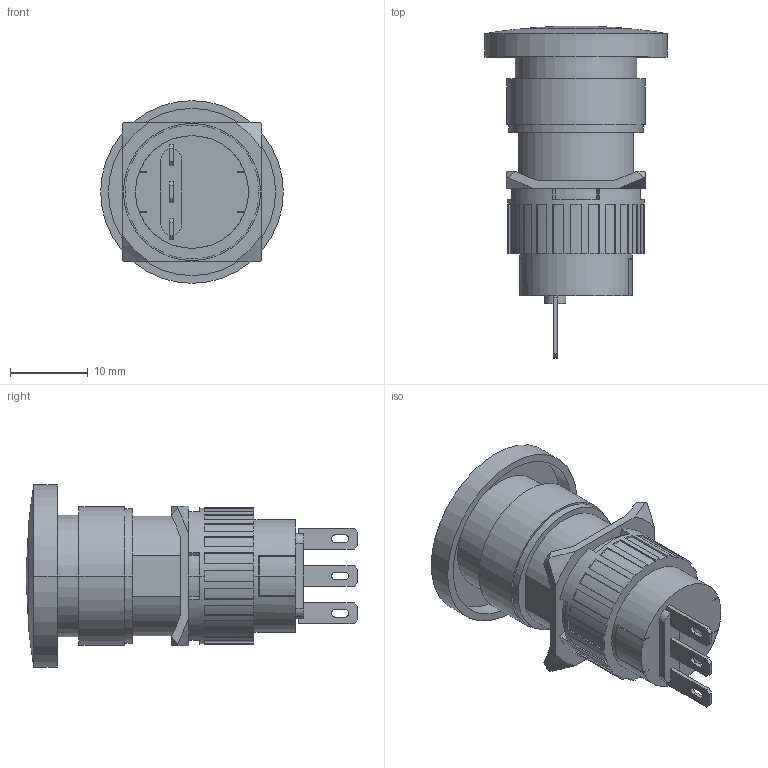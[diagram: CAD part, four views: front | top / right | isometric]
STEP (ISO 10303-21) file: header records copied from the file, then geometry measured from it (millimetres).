
FILE_DESCRIPTION (( 'STEP AP203' ), '1' );
FILE_NAME ('P16-MR.STEP', '2018-02-15T15:26:34', ( '' ), ( '' ), 'SwSTEP 2.0', 'SolidWorks 2012', '' );
FILE_SCHEMA (( 'CONFIG_CONTROL_DESIGN' ));
Length unit declared in the file: millimetre
Products named in the file (1): P16-MR
Bounding box: 23.5 x 42.7 x 23.5 mm (x, y, z)
Volume: 7722.9 mm3; surface area: 4185 mm2
Topology: 1 solids, 1 shells, 232 faces, 646 edges, 427 vertices
Faces by surface type: plane 148, cylinder 66, cone 12, sphere 4, torus 2
Entity records: 7591 total; most frequent: CARTESIAN_POINT 1378, DIRECTION 1304, ORIENTED_EDGE 1292, EDGE_CURVE 646, AXIS2_PLACEMENT_3D 449, VERTEX_POINT 427, LINE 406, VECTOR 406
